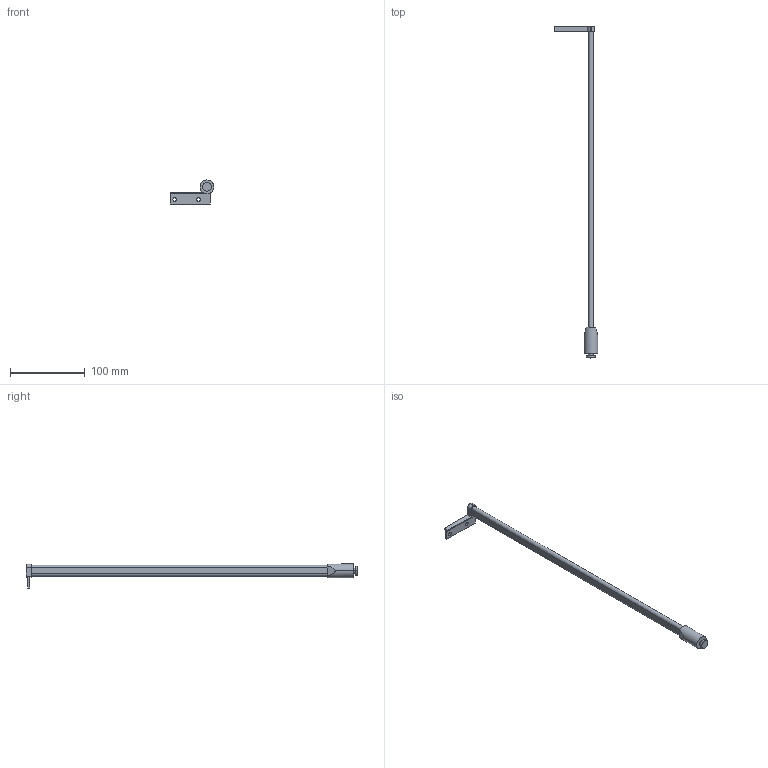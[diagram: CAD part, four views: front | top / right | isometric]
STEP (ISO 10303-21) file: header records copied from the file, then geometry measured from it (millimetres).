
FILE_DESCRIPTION (( 'STEP AP214' ), '1' );
FILE_NAME ('DWD-XP_Reling-Haengeregister_NL450_rechts.step', '2010-10-06T11:19:35', ( 'grass' ), ( '' ), 'SwSTEP 2.0', 'SolidWorks 2010', '' );
FILE_SCHEMA (( 'AUTOMOTIVE_DESIGN' ));
Length unit declared in the file: millimetre
Products named in the file (1): DWD-XP_Reling-Haengeregister_NL450_rechts
Bounding box: 58.1 x 444.3 x 32.15 mm (x, y, z)
Volume: 50599.2 mm3; surface area: 20733.9 mm2
Topology: 1 solids, 1 shells, 34 faces, 84 edges, 56 vertices
Faces by surface type: plane 20, cylinder 14
Entity records: 1058 total; most frequent: CARTESIAN_POINT 187, DIRECTION 178, ORIENTED_EDGE 168, EDGE_CURVE 84, AXIS2_PLACEMENT_3D 63, VERTEX_POINT 56, VECTOR 52, LINE 52
